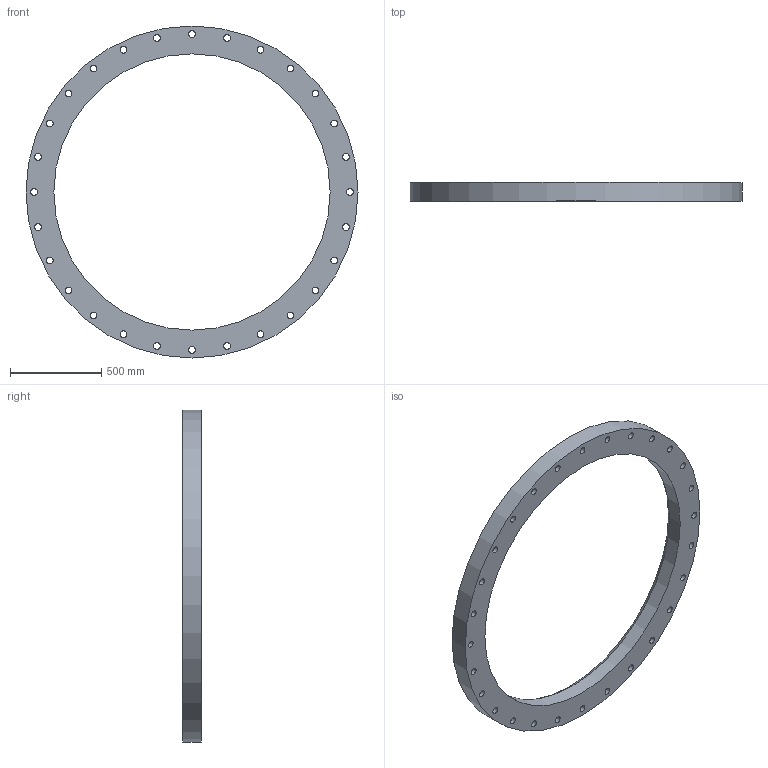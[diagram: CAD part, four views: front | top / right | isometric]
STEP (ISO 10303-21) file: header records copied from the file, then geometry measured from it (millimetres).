
FILE_DESCRIPTION (( 'STEP AP214' ), '1' );
FILE_NAME ('Discharge Pipe UPPER Flange.STEP', '2025-01-09T19:43:28', ( '' ), ( '' ), 'SwSTEP 2.0', 'SolidWorks 2024', '' );
FILE_SCHEMA (( 'AUTOMOTIVE_DESIGN' ));
Length unit declared in the file: inch
Products named in the file (1): Discharge Pipe UPPER Flange
Bounding box: 1816.1 x 101.6 x 1816.1 mm (x, y, z)
Volume: 77212588.1 mm3; surface area: 2937788.5 mm2
Topology: 1 solids, 1 shells, 37 faces, 126 edges, 93 vertices
Faces by surface type: cylinder 32, plane 4, cone 1
Full cylindrical faces by diameter (mm): 36.525 x28, 1511.3 x1, 1595.018 x1, 1612.9 x1, 1816.1 x1
Entity records: 1167 total; most frequent: DIRECTION 206, CARTESIAN_POINT 168, ORIENTED_EDGE 130, EDGE_LOOP 130, AXIS2_PLACEMENT_3D 103, FACE_OUTER_BOUND 69, CIRCLE 65, VERTEX_POINT 65
